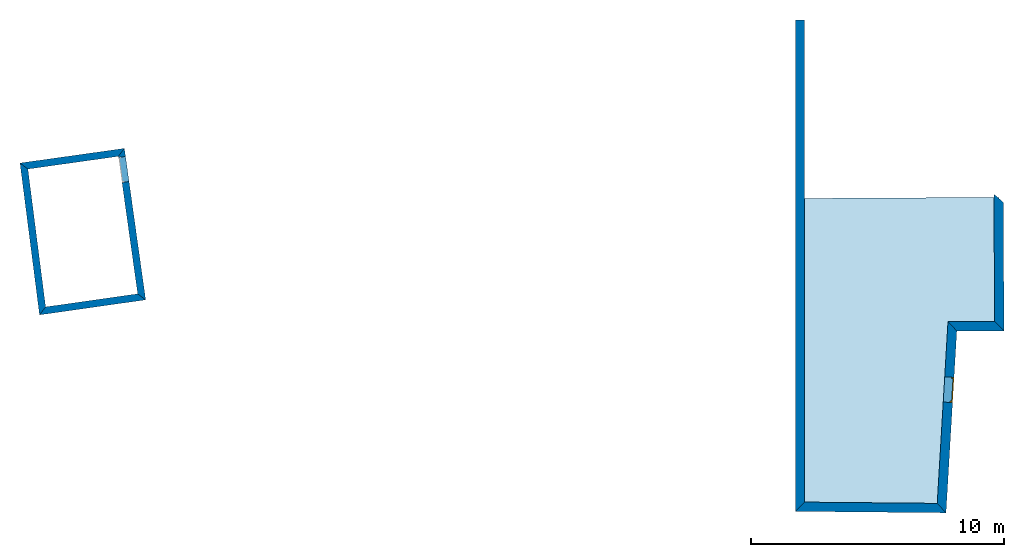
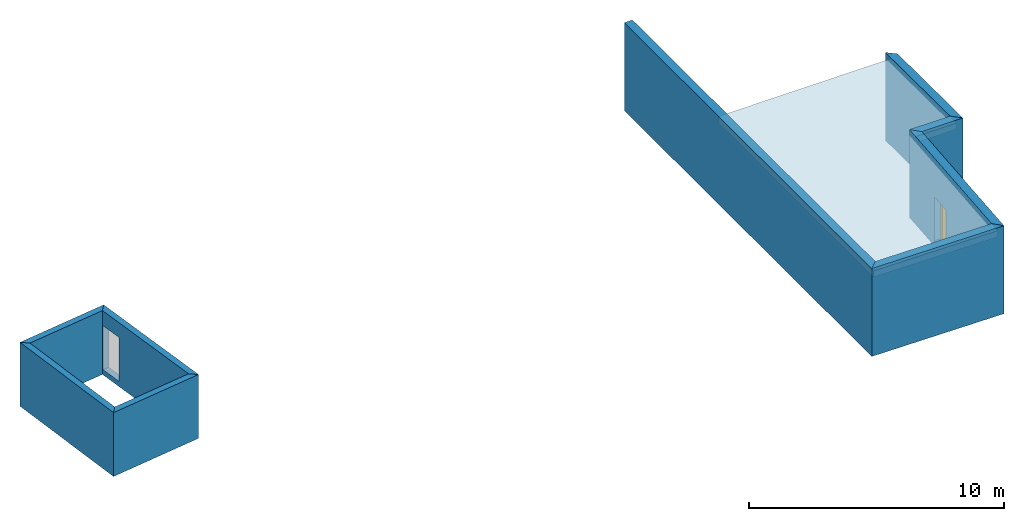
# One storey, part 1 of 2: 9 walls, 1 door, 1 slab, 2 openings.
"""IFC2X3 building model written with IfcOpenShell, lengths in metres."""

import ifcopenshell
import ifcopenshell.guid

model = None  # the IFC model being written
_history = None  # IfcOwnerHistory: only IFC2X3 demands one
_inside = {}  # id of a spatial element -> (the spatial element, [elements in it])
_under = {}  # id of a project, library or spatial element -> (it, [spatial elements below it])
_declared = {}  # id of a project -> (the project, [libraries it declares])
_typed = {}  # id of a type object -> (the type object, [elements of that type])
_made_of = {}  # id of a material, layer set ... -> (it, [elements and type objects made of it])


def new_model(schema):
    """Start an empty IFC model of exactly this schema.

    Asked for "IFC4X3", IfcOpenShell would pick the latest addendum, in which some entities
    have other attributes; the version numbers below select the first issue.
    IFC2X3 requires an IfcOwnerHistory on every rooted entity: one is made here for all.
    """
    global model, _history
    if schema == "IFC4X3":
        model = ifcopenshell.file(schema_version=(4, 3, 0, 0))
    else:
        model = ifcopenshell.file(schema=schema)
    _inside.clear()
    _under.clear()
    _declared.clear()
    _typed.clear()
    _made_of.clear()
    _history = None
    if model.schema == "IFC2X3":
        org = make("IfcOrganization", Name="unknown")
        user = make(
            "IfcPersonAndOrganization",
            ThePerson=make("IfcPerson", FamilyName="unknown"),
            TheOrganization=org,
        )
        app = make(
            "IfcApplication",
            ApplicationDeveloper=org,
            Version="unknown",
            ApplicationFullName="unknown",
            ApplicationIdentifier="unknown",
        )
        _history = make(
            "IfcOwnerHistory",
            OwningUser=user,
            OwningApplication=app,
            ChangeAction="ADDED",
            CreationDate=0,
        )
    return model


def make(cls, **values):
    """One entity of the class cls with the attributes given. An attribute that is None is left unset."""
    return model.create_entity(
        cls, **{name: value for name, value in values.items() if value is not None}
    )


def entity(cls, *values):
    """Any entity or typed value of the class cls, its attributes in the order of the schema. None: left unset."""
    e = model.create_entity(cls)
    for i, value in enumerate(values):
        if value is not None:
            e[i] = value
    return e


def rooted(cls, **values):
    """An entity with a GlobalId (a new one), such as an element, a storey or a relation."""
    return make(cls, GlobalId=ifcopenshell.guid.new(), OwnerHistory=_history, **values)


def si_unit(unit_type, name, prefix=None):
    """IfcSIUnit, for example si_unit("LENGTHUNIT", "METRE", prefix="MILLI")."""
    return make("IfcSIUnit", UnitType=unit_type, Prefix=prefix, Name=name)


def converted_unit(unit_type, name, factor, base, dimensions=None, offset=None):
    """IfcConversionBasedUnit, such as the inch: factor (a typed value) times the base unit."""
    return make(
        "IfcConversionBasedUnit"
        if offset is None
        else "IfcConversionBasedUnitWithOffset",
        ConversionOffset=offset,
        Dimensions=None
        if dimensions is None
        else entity("IfcDimensionalExponents", *dimensions),
        UnitType=unit_type,
        Name=name,
        ConversionFactor=make(
            "IfcMeasureWithUnit", ValueComponent=factor, UnitComponent=base
        ),
    )


def money_unit(currency):
    """IfcMonetaryUnit."""
    return make("IfcMonetaryUnit", Currency=currency)


def assignment(units):
    """IfcUnitAssignment: the units of a project."""
    return None if units is None else make("IfcUnitAssignment", Units=units)


def point(xyz):
    """IfcCartesianPoint."""
    return None if xyz is None else make("IfcCartesianPoint", Coordinates=xyz)


def direction(xyz):
    """IfcDirection."""
    return None if xyz is None else make("IfcDirection", DirectionRatios=xyz)


def frame(location, z_axis=None, x_axis=None):
    """IfcAxis2Placement3D, a coordinate frame: its origin and axes. An axis left out is left unset."""
    return make(
        "IfcAxis2Placement3D",
        Location=point(location),
        Axis=direction(z_axis),
        RefDirection=direction(x_axis),
    )


def frame_2d(location, x_axis=None):
    """IfcAxis2Placement2D, a coordinate frame in the plane: its origin and x axis."""
    return make(
        "IfcAxis2Placement2D", Location=point(location), RefDirection=direction(x_axis)
    )


def origin_with_axes():
    """The frame at (0, 0, 0) with the z axis (0, 0, 1) and the x axis (1, 0, 0) written out."""
    return frame((0.0, 0.0, 0.0), z_axis=(0.0, 0.0, 1.0), x_axis=(1.0, 0.0, 0.0))


def origin_2d_with_axis():
    """The frame at (0, 0) in the plane with the x axis (1, 0) written out."""
    return frame_2d((0.0, 0.0), x_axis=(1.0, 0.0))


def place(relative_to, where):
    """IfcLocalPlacement: puts the frame where relative to a parent placement (None: the world)."""
    return make(
        "IfcLocalPlacement", PlacementRelTo=relative_to, RelativePlacement=where
    )


def context(
    kind, dimensions, precision=None, world=None, true_north=None, identifier=None
):
    """IfcGeometricRepresentationContext, for example the 3D "Model" context."""
    return make(
        "IfcGeometricRepresentationContext",
        ContextIdentifier=identifier,
        ContextType=kind,
        CoordinateSpaceDimension=dimensions,
        Precision=precision,
        WorldCoordinateSystem=world,
        TrueNorth=true_north,
    )


def subcontext(parent, identifier, kind, view, scale=None):
    """IfcGeometricRepresentationSubContext, for example "Body" below "Model"."""
    return make(
        "IfcGeometricRepresentationSubContext",
        ContextIdentifier=identifier,
        ContextType=kind,
        ParentContext=parent,
        TargetScale=scale,
        TargetView=view,
    )


def project(units=None, contexts=None):
    """IfcProject with its units and contexts."""
    return rooted(
        "IfcProject",
        Name="project",
        RepresentationContexts=contexts,
        UnitsInContext=assignment(units),
    )


def spatial(cls, under=None, at=None, **own):
    """A site, building, storey or space (cls), placed at a placement, below another one or the project."""
    s = rooted(cls, ObjectPlacement=at, **own)
    if under is not None:
        _under.setdefault(under.id(), (under, []))[1].append(s)
    return s


def polyline(points):
    """IfcPolyline through the points."""
    return make("IfcPolyline", Points=[point(p) for p in points])


def profile(cls, at=None, kind="AREA", **sizes):
    """A parametric profile (cls). Its sizes go by their IFC names, for example OverallWidth=200.0."""
    return make(cls, ProfileType=kind, Position=at, **sizes)


def rectangle(**sizes):
    """IfcRectangleProfileDef."""
    return profile("IfcRectangleProfileDef", **sizes)


def outline(outer, holes=None, kind="AREA"):
    """IfcArbitraryClosedProfileDef: a profile drawn as a closed curve; with holes, ...WithVoids."""
    if holes is None:
        return make("IfcArbitraryClosedProfileDef", ProfileType=kind, OuterCurve=outer)
    return make(
        "IfcArbitraryProfileDefWithVoids",
        ProfileType=kind,
        OuterCurve=outer,
        InnerCurves=holes,
    )


def extrude(swept, where, along, depth):
    """IfcExtrudedAreaSolid: the profile swept, set in the frame where, extruded along a direction by depth."""
    return make(
        "IfcExtrudedAreaSolid",
        SweptArea=swept,
        Position=where,
        ExtrudedDirection=direction(along),
        Depth=depth,
    )


def faces_of(points, faces, orient=None, outer=None):
    """IfcFace entities. A face is a list of loops; a loop is a list of indices into points, from 0.

    orient and outer hold one flag for each loop. By default every Orientation is true, the
    first loop of a face is its IfcFaceOuterBound and the others are IfcFaceBound.
    """
    made = []
    for i, loops in enumerate(faces):
        bounds = []
        for j, loop in enumerate(loops):
            is_outer = j == 0 if outer is None else outer[i][j]
            bounds.append(
                make(
                    "IfcFaceOuterBound" if is_outer else "IfcFaceBound",
                    Bound=make("IfcPolyLoop", Polygon=[points[k] for k in loop]),
                    Orientation=True if orient is None else orient[i][j],
                )
            )
        made.append(make("IfcFace", Bounds=bounds))
    return made


def faceted_brep(points, faces, orient=None, outer=None, voids=None):
    """IfcFacetedBrep: a solid bounded by flat faces; with voids (closed shells), ...WithVoids."""
    shared = [point(p) for p in points]
    hull = make("IfcClosedShell", CfsFaces=faces_of(shared, faces, orient, outer))
    if voids is None:
        return make("IfcFacetedBrep", Outer=hull)
    return make(
        "IfcFacetedBrepWithVoids",
        Outer=hull,
        Voids=[
            make(cls, CfsFaces=faces_of(shared, fs, o, b)) for cls, fs, o, b in voids
        ],
    )


def shape(context_of_items, identifier, shape_type, items):
    """IfcShapeRepresentation: the items that make up one representation, for example the "Body"."""
    return make(
        "IfcShapeRepresentation",
        ContextOfItems=context_of_items,
        RepresentationIdentifier=identifier,
        RepresentationType=shape_type,
        Items=items,
    )


def source(mapping_origin, context_of_items, identifier, shape_type, items):
    """IfcRepresentationMap: a shape defined once, which mapped items show again and again."""
    return make(
        "IfcRepresentationMap",
        MappingOrigin=mapping_origin,
        MappedRepresentation=shape(context_of_items, identifier, shape_type, items),
    )


def transform(
    local_origin,
    x_axis=None,
    y_axis=None,
    z_axis=None,
    scale=None,
    scale2=None,
    scale3=None,
    uniform=True,
):
    """IfcCartesianTransformationOperator3D, or its non-uniform kind. x_axis, y_axis, z_axis: its Axis1, 2, 3."""
    if uniform:
        return make(
            "IfcCartesianTransformationOperator3D",
            Axis1=direction(x_axis),
            Axis2=direction(y_axis),
            LocalOrigin=point(local_origin),
            Scale=scale,
            Axis3=direction(z_axis),
        )
    return make(
        "IfcCartesianTransformationOperator3DnonUniform",
        Axis1=direction(x_axis),
        Axis2=direction(y_axis),
        LocalOrigin=point(local_origin),
        Scale=scale,
        Axis3=direction(z_axis),
        Scale2=scale2,
        Scale3=scale3,
    )


def mapped(mapping_source, mapping_target):
    """IfcMappedItem: shows the shape of a source again, moved by a transform."""
    return make(
        "IfcMappedItem", MappingSource=mapping_source, MappingTarget=mapping_target
    )


def material(Name=None, Category=None):
    """IfcMaterial."""
    return make("IfcMaterial", Name=Name, Category=Category)


def material_list(materials):
    """IfcMaterialList."""
    return make("IfcMaterialList", Materials=materials)


def layer(
    of_material, thickness, ventilated=None, Name=None, Category=None, Priority=None
):
    """IfcMaterialLayer: one layer of a wall or slab, of a material (None: an air gap)."""
    return make(
        "IfcMaterialLayer",
        Material=of_material,
        LayerThickness=thickness,
        IsVentilated=ventilated,
        Name=Name,
        Category=Category,
        Priority=Priority,
    )


def layer_set(layers, Name=None):
    """IfcMaterialLayerSet."""
    return make("IfcMaterialLayerSet", MaterialLayers=layers, LayerSetName=Name)


def layer_usage(for_layer_set, set_direction, sense, offset, extent=None):
    """IfcMaterialLayerSetUsage: how a layer set lies in its element."""
    return make(
        "IfcMaterialLayerSetUsage",
        ForLayerSet=for_layer_set,
        LayerSetDirection=set_direction,
        DirectionSense=sense,
        OffsetFromReferenceLine=offset,
        ReferenceExtent=extent,
    )


def made_of(thing, what):
    """Note that an element or type object is made of a material, layer set ...; save() writes the relation."""
    if what is not None:
        _made_of.setdefault(what.id(), (what, []))[1].append(thing)
    return thing


def type_object(cls, material=None, **own):
    """A type object (cls), such as IfcWallType, which elements share."""
    return made_of(rooted(cls, **own), material)


def element(
    cls,
    number,
    at=None,
    inside=None,
    cuts=None,
    type_object=None,
    material=None,
    context=None,
    identifier="Body",
    shape_type=None,
    held_by="IfcProductDefinitionShape",
    body=None,
    shapes=None,
    **own,
):
    """One element of the class cls, such as IfcWall. Its Tag is "e" and its number.

    at: its placement. inside: the storey or other place that contains it. cuts: it is an
    opening in that element (IfcRelVoidsElement). A single representation is given by context,
    identifier, shape_type and body (its items); several are given by shapes. held_by: the class
    of the entity that holds the representations. save() writes the other relations.
    """
    e = rooted(cls, Tag="e%d" % number, ObjectPlacement=at, **own)
    if body is not None:
        shapes = [shape(context, identifier, shape_type, body)]
    if shapes is not None:
        e.Representation = make(held_by, Representations=shapes)
    if inside is not None:
        _inside.setdefault(inside.id(), (inside, []))[1].append(e)
    if cuts is not None:
        rooted(
            "IfcRelVoidsElement", RelatingBuildingElement=cuts, RelatedOpeningElement=e
        )
    if type_object is not None:
        _typed.setdefault(type_object.id(), (type_object, []))[1].append(e)
    return made_of(e, material)


def fill(opening, filler):
    """IfcRelFillsElement: the door or window that sits in an opening."""
    return rooted(
        "IfcRelFillsElement",
        RelatingOpeningElement=opening,
        RelatedBuildingElement=filler,
    )


def aggregate(whole, parts):
    """IfcRelAggregates: a whole, such as a stair, and the parts it consists of."""
    return rooted("IfcRelAggregates", RelatingObject=whole, RelatedObjects=parts)


def save(model, path):
    """Write the relations noted so far, then the file.

    IfcRelAggregates (storeys below a building ...), IfcRelContainedInSpatialStructure (elements
    in a storey), IfcRelDefinesByType, IfcRelAssociatesMaterial and IfcRelDeclares: one each for
    every whole, place, type object, material and project.
    """
    for whole, parts in _under.values():
        aggregate(whole, parts)
    for where, things in _inside.values():
        rooted(
            "IfcRelContainedInSpatialStructure",
            RelatedElements=things,
            RelatingStructure=where,
        )
    for kind, things in _typed.values():
        rooted("IfcRelDefinesByType", RelatedObjects=things, RelatingType=kind)
    for what, things in _made_of.values():
        rooted("IfcRelAssociatesMaterial", RelatedObjects=things, RelatingMaterial=what)
    for by, libraries in _declared.values():
        rooted("IfcRelDeclares", RelatingContext=by, RelatedDefinitions=libraries)
    model.write(path)


model = new_model("IFC2X3")

# Units and contexts
model_context = context("Model", 3, precision=1e-05, world=origin_with_axes(), true_north=direction((0.0, 1.0)))
body_context = subcontext(model_context, "Body", "Model", "MODEL_VIEW")
ifc_project = project(units=[si_unit("LENGTHUNIT", "METRE"), si_unit("AREAUNIT", "SQUARE_METRE"), si_unit("VOLUMEUNIT", "CUBIC_METRE"), converted_unit("PLANEANGLEUNIT", "DEGREE", entity("IfcPlaneAngleMeasure", 0.0174532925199), si_unit("PLANEANGLEUNIT", "RADIAN"), dimensions=[0, 0, 0, 0, 0, 0, 0]), si_unit("SOLIDANGLEUNIT", "STERADIAN"), money_unit("EUR"), converted_unit("TIMEUNIT", "Year", entity("IfcTimeMeasure", 31556926.0), si_unit("TIMEUNIT", "SECOND"), dimensions=[0, 0, 0, 0, 0, 0, 0]), si_unit("MASSUNIT", "GRAM"), si_unit("THERMODYNAMICTEMPERATUREUNIT", "DEGREE_CELSIUS"), si_unit("LUMINOUSINTENSITYUNIT", "LUMEN")], contexts=[model_context])

# Site, building, storey
site_placement = place(None, origin_with_axes())
site = spatial("IfcSite", under=ifc_project, at=site_placement, Name="Undefined", CompositionType="ELEMENT")
building_placement = place(site_placement, origin_with_axes())
building = spatial("IfcBuilding", under=site, at=building_placement, Name="Undefined", CompositionType="ELEMENT")
storey_placement = place(building_placement, frame((0.0, 0.0, 19.35), z_axis=(0.0, 0.0, 1.0), x_axis=(1.0, 0.0, 0.0)))
storey = spatial("IfcBuildingStorey", under=building, at=storey_placement, Name="Etage", CompositionType="ELEMENT", Elevation=19.35)

# Slab
ifc_material_1 = material(Name="Background Fill 2344352818")
ifc_layer_1 = layer(ifc_material_1, 0.3048, ventilated="UNKNOWN")
ifc_layer_set_1 = layer_set([ifc_layer_1], Name="Background Fill 2344352818 0.3048")
ifc_layer_usage_1 = layer_usage(ifc_layer_set_1, "AXIS3", "NEGATIVE", 0.3048)
slab_type = type_object("IfcSlabType", Name="Background Fill 2344352818 305", PredefinedType="FLOOR")
slab_placement = place(storey_placement, frame((29.2507596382, 11.4893435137, 1.74467992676), z_axis=(0.0, 0.0, 1.0), x_axis=(1.0, 0.0, 0.0)))
element("IfcSlab", 1, at=slab_placement, inside=storey, type_object=slab_type, material=ifc_layer_usage_1, Name="Roof_01", ObjectType="ROOF", PredefinedType="FLOOR", context=body_context, shape_type="SweptSolid", body=[
    extrude(outline(polyline([(0.0, 0.0), (5.62065217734, -0.0535758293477), (6.04681095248, 7.13715409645), (7.90213330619, 7.13715655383), (7.87638557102, 12.2455989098), (0.0109264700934, 12.2035392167), (0.0, 0.0)])), frame((0.0, 0.0, -0.3048), z_axis=(0.0, 0.0, 1.0), x_axis=(1.0, 0.0, 0.0)), (0.0, 0.0, 1.0), 0.3048),
])

# Wall, opening, door
ifc_material_2 = material(Name="Finition ext - Cr\x8epis")
ifc_layer_2 = layer(ifc_material_2, 0.015, ventilated="UNKNOWN")
ifc_material_3 = material(Name="Isolation - Fibres de bois")
ifc_layer_3 = layer(ifc_material_3, 0.16, ventilated="UNKNOWN")
ifc_material_4 = material(Name="Struct. - B.A. banch\x8e")
ifc_layer_4 = layer(ifc_material_4, 0.18, ventilated="UNKNOWN")
ifc_material_5 = material(Name="Finition int - Enduit pl\x89tre")
ifc_layer_5 = layer(ifc_material_5, 0.015, ventilated="UNKNOWN")
ifc_layer_set_2 = layer_set([ifc_layer_2, ifc_layer_3, ifc_layer_4, ifc_layer_5], Name="1.2-Mur ext: rev\x8et ext + isol ext + ma\x8donnerie + enduit")
ifc_layer_usage_2 = layer_usage(ifc_layer_set_2, "AXIS2", "POSITIVE", 0.0)
wall_type_1 = type_object("IfcWallType", Name="1.2-Mur ext: rev\x8et ext + isol ext + ma\x8donnerie + enduit 370", PredefinedType="NOTDEFINED")
wall_1_placement = place(storey_placement, frame((35.0362539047, 11.2591884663, -2.19), z_axis=(0.0, 0.0, 1.0), x_axis=(0.0591612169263, 0.998248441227, 0.0)))
wall_1 = element("IfcWallStandardCase", 2, at=wall_1_placement, inside=storey, type_object=wall_type_1, material=ifc_layer_usage_2, Name="WALL_EX_03", ObjectType="WALL", context=body_context, shape_type="SweptSolid", body=[
    extrude(outline(polyline([(0.0, 0.0), (7.20492921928, 0.0), (7.55364991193, 0.37), (0.352065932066, 0.37), (0.0, 0.0)])), origin_with_axes(), (0.0, 0.0, 1.0), 4.215),
])
opening_1_placement = place(wall_1_placement, frame((4.86637404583, 0.0, 0.258173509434), z_axis=(0.0, 0.0, 1.0), x_axis=(1.0, 0.0, 0.0)))
opening_1 = element("IfcOpeningElement", 3, at=opening_1_placement, cuts=wall_1, Name="DOOR_1000", context=body_context, shape_type="SweptSolid", body=[
    extrude(rectangle(XDim=1.0, YDim=2.1, at=origin_2d_with_axis()), frame((0.0, -0.37, 1.05), z_axis=(0.0, 1.0, 0.0), x_axis=(1.0, 0.0, 0.0)), (0.0, 0.0, 1.0), 0.37),
    extrude(rectangle(XDim=1.0, YDim=2.1, at=origin_2d_with_axis()), frame((0.0, 0.37, 1.05), z_axis=(0.0, -1.0, 0.0), x_axis=(1.0, 0.0, 0.0)), (0.0, 0.0, 1.0), 0.37),
])
ifc_material_6 = material(Name="Background Fill-International")
ifc_material_7 = material(Name="Air Space")
ifc_material_list = material_list([ifc_material_6, ifc_material_7])
door_style = type_object("IfcDoorStyle", Name="IFC Porte - Simple battant", ConstructionType="NOTDEFINED", OperationType="SINGLE_SWING_RIGHT", ParameterTakesPrecedence=True, Sizeable=False)
shared_shape = source(origin_with_axes(), body_context, "Body", "Brep", [
    faceted_brep([(-0.5, 0.0, 0.0), (-0.45, 0.0, 0.0), (-0.45, -0.1, 0.0), (-0.5, -0.1, 0.0), (-0.5, 0.0, 2.1), (0.5, 0.0, 2.1), (0.5, 0.0, 0.0), (0.45, 0.0, 0.0), (0.45, 0.0, 2.05), (-0.45, 0.0, 2.05), (-0.45, -0.1, 2.05), (0.45, -0.1, 2.05), (0.45, -0.1, 0.0), (0.5, -0.1, 0.0), (0.5, -0.1, 2.1), (-0.5, -0.1, 2.1)], [[[0, 1, 2, 3]], [[0, 4, 5, 6, 7, 8, 9, 1]], [[1, 9, 10, 2]], [[3, 2, 10, 11, 12, 13, 14, 15]], [[4, 0, 3, 15]], [[5, 4, 15, 14]], [[6, 5, 14, 13]], [[7, 6, 13, 12]], [[8, 7, 12, 11]], [[9, 8, 11, 10]]]),
    faceted_brep([(0.45, 0.0, 0.0), (0.45, 0.0, 2.05), (0.45, -0.04, 2.05), (0.45, -0.04, 0.0), (-0.45, 0.0, 0.0), (-0.45, 0.0, 2.05), (-0.45, -0.04, 2.05), (-0.45, -0.04, 0.0)], [[[0, 1, 2, 3]], [[0, 4, 5, 1]], [[1, 5, 6, 2]], [[3, 2, 6, 7]], [[4, 0, 3, 7]], [[5, 4, 7, 6]]]),
])
door_placement = place(opening_1_placement, frame((0.5, 0.0, 0.0), z_axis=(0.0, 0.0, 1.0), x_axis=(-1.0, 0.0, 0.0)))
door = element("IfcDoor", 4, at=door_placement, inside=storey, type_object=door_style, material=ifc_material_list, Name="DOOR_1000", ObjectType="DOOR", OverallHeight=2.1, OverallWidth=1.0, context=body_context, shape_type="MappedRepresentation", body=[
    mapped(shared_shape, transform((0.5, 0.0, 0.0))),
])
fill(opening_1, door)

# Walls
ifc_layer_usage_3 = layer_usage(ifc_layer_set_2, "AXIS2", "POSITIVE", 0.0)
wall_2_placement = place(storey_placement, frame((29.2607597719, 11.3142402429, -2.19), z_axis=(0.0, 0.0, 1.0), x_axis=(0.999954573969, -0.00953152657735, 0.0)))
element("IfcWallStandardCase", 5, at=wall_2_placement, inside=storey, type_object=wall_type_1, material=ifc_layer_usage_3, Name="WALL_EX_03", ObjectType="WALL", context=body_context, shape_type="SweptSolid", body=[
    extrude(outline(polyline([(-0.185008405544, 0.0), (5.77575650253, 0.0), (5.42369057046, 0.37), (0.181481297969, 0.37), (-0.185008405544, 0.0)])), origin_with_axes(), (0.0, 0.0, 1.0), 4.215),
])
ifc_layer_usage_4 = layer_usage(ifc_layer_set_2, "AXIS2", "POSITIVE", 0.0)
wall_3_placement = place(storey_placement, frame((37.3287772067, 18.4515003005, -2.19), z_axis=(0.0, 0.0, 1.0), x_axis=(-0.00504016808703, 0.999987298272, 0.0)))
element("IfcWallStandardCase", 6, at=wall_3_placement, inside=storey, type_object=wall_type_1, material=ifc_layer_usage_4, Name="WALL_EX_03", ObjectType="WALL", context=body_context, shape_type="SweptSolid", body=[
    extrude(outline(polyline([(0.0, 0.0), (5.08643756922, 0.0), (5.41217381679, 0.37), (0.37186909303, 0.37), (0.0, 0.0)])), origin_with_axes(), (0.0, 0.0, 1.0), 4.215),
])
ifc_layer_usage_5 = layer_usage(ifc_layer_set_2, "AXIS2", "POSITIVE", 0.0)
wall_4_placement = place(storey_placement, frame((35.4625062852, 18.4514978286, -2.19), z_axis=(0.0, 0.0, 1.0), x_axis=(0.999999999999, 1.32450332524e-06, 0.0)))
element("IfcWallStandardCase", 7, at=wall_4_placement, inside=storey, type_object=wall_type_1, material=ifc_layer_usage_5, Name="WALL_EX_03", ObjectType="WALL", context=body_context, shape_type="SweptSolid", body=[
    extrude(outline(polyline([(0.0, 0.0), (1.86627092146, 0.0), (1.49440182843, 0.37), (-0.348720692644, 0.37), (0.0, 0.0)])), origin_with_axes(), (0.0, 0.0, 1.0), 4.215),
])
ifc_layer_usage_6 = layer_usage(ifc_layer_set_2, "AXIS2", "POSITIVE", -0.185)
wall_5_placement = place(storey_placement, frame((29.2607449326, 30.7493798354, -2.19), z_axis=(0.0, 0.0, 1.0), x_axis=(7.63529876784e-07, -1.0, 0.0)))
element("IfcWallStandardCase", 8, at=wall_5_placement, inside=storey, type_object=wall_type_1, material=ifc_layer_usage_6, Name="WALL_EX_03", ObjectType="WALL", context=body_context, shape_type="SweptSolid", body=[
    extrude(outline(polyline([(0.0, -0.185), (19.4333760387, -0.185), (19.0668863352, 0.185), (0.0, 0.185), (0.0, -0.185)])), origin_with_axes(), (0.0, 0.0, 1.0), 4.215),
])
ifc_layer_6 = layer(ifc_material_5, 0.015, ventilated="UNKNOWN")
ifc_material_8 = material(Name="Struct. - B.A. coul\x8e")
ifc_layer_7 = layer(ifc_material_8, 0.1, ventilated="UNKNOWN")
ifc_material_9 = material(Name="Divers - Vide")
ifc_layer_8 = layer(ifc_material_9, 0.05, ventilated="UNKNOWN")
ifc_layer_9 = layer(ifc_material_8, 0.1, ventilated="UNKNOWN")
ifc_layer_10 = layer(ifc_material_5, 0.015, ventilated="UNKNOWN")
ifc_layer_set_3 = layer_set([ifc_layer_6, ifc_layer_7, ifc_layer_8, ifc_layer_9, ifc_layer_10], Name="3.3-Refend: 2x b\x8eton + vide + enduit pl\x89tre 2 faces")
ifc_layer_usage_7 = layer_usage(ifc_layer_set_3, "AXIS2", "POSITIVE", -0.28)
wall_type_2 = type_object("IfcWallType", Name="3.3-Refend: 2x b\x8eton + vide + enduit pl\x89tre 2 faces 280", PredefinedType="NOTDEFINED")
wall_6_placement = place(storey_placement, frame((-1.31026151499, 25.1315355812, -2.19), z_axis=(0.0, 0.0, 1.0), x_axis=(0.127345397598, -0.991858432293, 0.0)))
element("IfcWallStandardCase", 9, at=wall_6_placement, inside=storey, type_object=wall_type_2, material=ifc_layer_usage_7, Name="WALL_EX_03", ObjectType="WALL", context=body_context, shape_type="SweptSolid", body=[
    extrude(outline(polyline([(0.00331888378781, -0.28), (6.05975458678, -0.28), (5.77600158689, 0.0), (0.280019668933, 0.0), (0.00331888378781, -0.28)])), origin_with_axes(), (0.0, 0.0, 1.0), 3.06089819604),
])

# Wall, opening
ifc_layer_usage_8 = layer_usage(ifc_layer_set_3, "AXIS2", "NEGATIVE", 0.28)
wall_7_placement = place(storey_placement, frame((3.38291495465, 19.6815315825, -2.19), z_axis=(0.0, 0.0, 1.0), x_axis=(-0.13917321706, 0.990268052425, 0.0)))
wall_7 = element("IfcWallStandardCase", 10, at=wall_7_placement, inside=storey, type_object=wall_type_2, material=ifc_layer_usage_8, Name="WALL_EX_03", ObjectType="WALL", context=body_context, shape_type="SweptSolid", body=[
    extrude(outline(polyline([(0.0, 0.0), (6.04981145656, 0.0), (5.76983434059, 0.28), (0.279613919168, 0.28), (0.0, 0.0)])), origin_with_axes(), (0.0, 0.0, 1.0), 3.06089819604),
])
opening_2_placement = place(wall_7_placement, frame((5.22583121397, 0.0, 0.252981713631), z_axis=(0.0, 0.0, 1.0), x_axis=(1.0, 0.0, 0.0)))
element("IfcOpeningElement", 11, at=opening_2_placement, cuts=wall_7, Name="DOOR_1000", context=body_context, shape_type="SweptSolid", body=[
    extrude(rectangle(XDim=1.0, YDim=2.1, at=origin_2d_with_axis()), frame((0.0, 0.56, 1.05), z_axis=(0.0, -1.0, 0.0), x_axis=(1.0, 0.0, 0.0)), (0.0, 0.0, 1.0), 0.28),
    extrude(rectangle(XDim=1.0, YDim=2.1, at=origin_2d_with_axis()), frame((0.0, 0.0, 1.05), z_axis=(0.0, 1.0, 0.0), x_axis=(1.0, 0.0, 0.0)), (0.0, 0.0, 1.0), 0.28),
])

# Walls
ifc_layer_usage_9 = layer_usage(ifc_layer_set_3, "AXIS2", "POSITIVE", -0.28)
wall_8_placement = place(storey_placement, frame((-1.31026151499, 25.1315355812, -2.19), z_axis=(0.0, 0.0, 1.0), x_axis=(0.990279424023, 0.139092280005, 0.0)))
element("IfcWallStandardCase", 12, at=wall_8_placement, inside=storey, type_object=wall_type_2, material=ifc_layer_usage_9, Name="WALL_EX_03", ObjectType="WALL", context=body_context, shape_type="SweptSolid", body=[
    extrude(outline(polyline([(-0.00331888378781, -0.28), (3.60903102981, -0.28), (3.88900814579, 0.0), (-0.280019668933, 0.0), (-0.00331888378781, -0.28)])), origin_with_axes(), (0.0, 0.0, 1.0), 3.06089819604),
])
ifc_layer_usage_10 = layer_usage(ifc_layer_set_3, "AXIS2", "NEGATIVE", 0.28)
wall_9_placement = place(storey_placement, frame((-0.53905442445, 19.1248147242, -2.19), z_axis=(0.0, 0.0, 1.0), x_axis=(0.99007507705, 0.140539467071, 0.0)))
element("IfcWallStandardCase", 13, at=wall_9_placement, inside=storey, type_object=wall_type_2, material=ifc_layer_usage_10, Name="WALL_EX_03", ObjectType="WALL", context=body_context, shape_type="SweptSolid", body=[
    extrude(outline(polyline([(-0.280024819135, 0.0), (3.96128482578, 0.0), (3.68167090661, 0.28), (0.00372818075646, 0.28), (-0.280024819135, 0.0)])), origin_with_axes(), (0.0, 0.0, 1.0), 3.06089819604),
])

save(model, "model.ifc")
